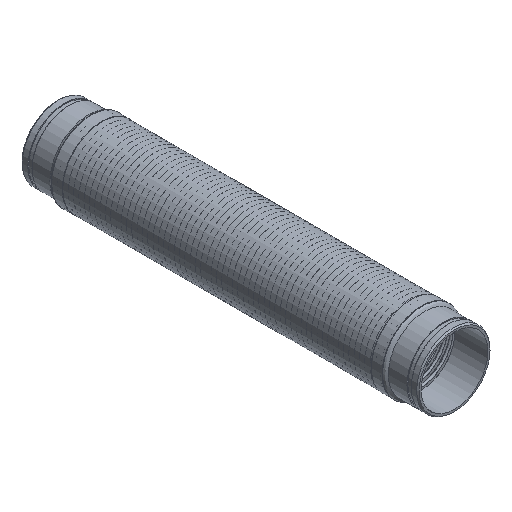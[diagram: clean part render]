
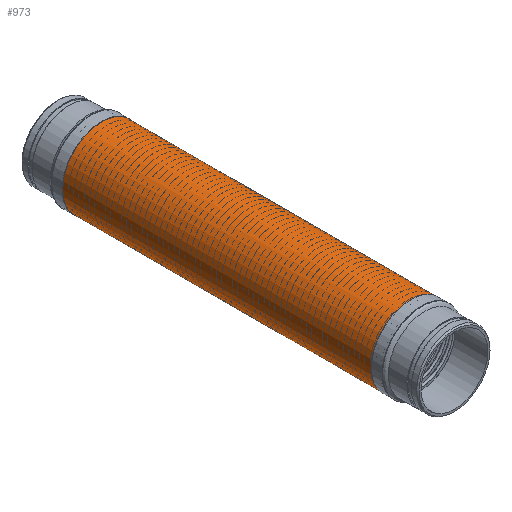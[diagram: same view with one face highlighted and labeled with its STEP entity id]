
A CAD part, isometric view. The second image highlights one B-rep face of the part: STEP entity #973.
In plain terms, the highlighted cylindrical face has radius 90.043 mm (diameter 180.086 mm), a full revolution.
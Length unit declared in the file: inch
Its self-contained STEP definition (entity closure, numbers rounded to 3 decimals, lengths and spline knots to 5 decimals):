
#939=CARTESIAN_POINT('',(-3.545,-15.,0.));
#940=VERTEX_POINT('',#939);
#941=CARTESIAN_POINT('',(0.0,-15.,0.0));
#942=DIRECTION('',(0.0,1.0,0.0));
#943=DIRECTION('',(1.0,0.0,0.0));
#944=AXIS2_PLACEMENT_3D('',#941,#942,#943);
#945=CIRCLE('',#944,3.545);
#946=EDGE_CURVE('',#940,#940,#945,.T.);
#954=CARTESIAN_POINT('',(0.0,0.0,0.0));
#955=DIRECTION('',(0.0,1.0,0.0));
#956=DIRECTION('',(1.0,0.0,0.0));
#957=AXIS2_PLACEMENT_3D('',#954,#955,#956);
#958=CYLINDRICAL_SURFACE('',#957,3.545);
#959=ORIENTED_EDGE('',*,*,#946,.T.);
#960=EDGE_LOOP('',(#959));
#961=FACE_OUTER_BOUND('',#960,.T.);
#962=CARTESIAN_POINT('',(-3.545,15.,0.));
#963=VERTEX_POINT('',#962);
#964=CARTESIAN_POINT('',(0.0,15.,0.0));
#965=DIRECTION('',(0.0,-1.0,0.0));
#966=DIRECTION('',(1.0,0.0,0.0));
#967=AXIS2_PLACEMENT_3D('',#964,#965,#966);
#968=CIRCLE('',#967,3.545);
#969=EDGE_CURVE('',#963,#963,#968,.T.);
#970=ORIENTED_EDGE('',*,*,#969,.T.);
#971=EDGE_LOOP('',(#970));
#972=FACE_BOUND('',#971,.T.);
#973=ADVANCED_FACE('',(#961,#972),#958,.T.);
